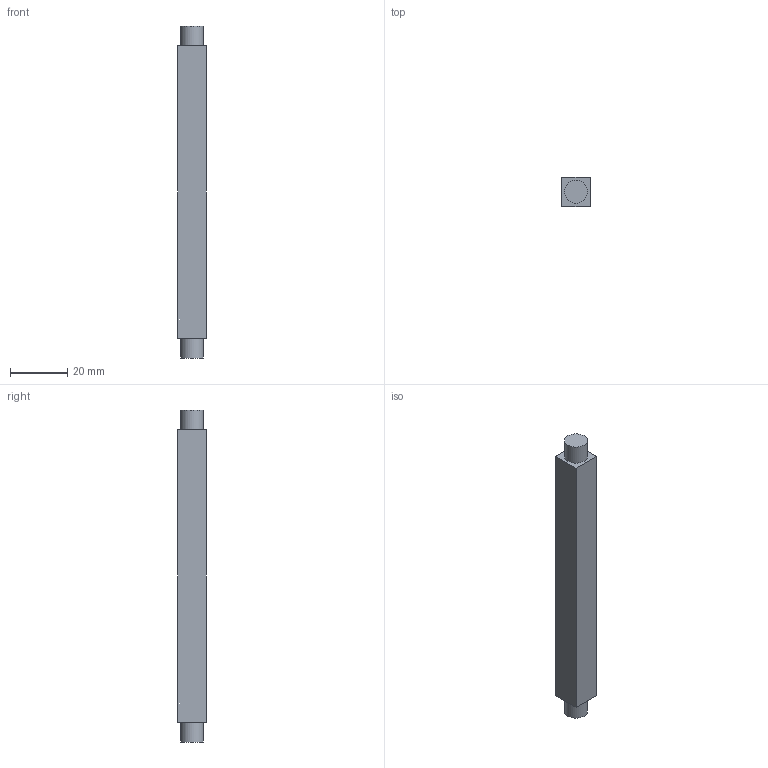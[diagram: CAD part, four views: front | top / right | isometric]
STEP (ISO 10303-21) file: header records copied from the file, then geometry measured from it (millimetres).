
FILE_DESCRIPTION(/* description */ ('STEP AP242','CAx-IF Rec.Pracs.---Representation and Presentation of Product Manufacturing Information (PMI)---4.0---2014-10-13','CAx-IF Rec.Pracs.---3D Tessellated Geometry---0.4---2014-09-14','2;1'),/* implementation_level */ '2;1');
FILE_NAME(/* name */ 'Part Studio 1 - Cam Shaft',/* time_stamp */ '2025-09-04T05:47:28Z',/* author */ (''),/* organization */ (''),/* preprocessor_version */ 'ST-DEVELOPER v20',/* originating_system */ 'ONSHAPE BY PTC INC, 1.203',/* authorisation */ ' ');
FILE_SCHEMA (('AP242_MANAGED_MODEL_BASED_3D_ENGINEERING_MIM_LF { 1 0 10303 442 1 1 4 }'));
Length unit declared in the file: metre
Products named in the file (1): Cam Shaft
Bounding box: 10 x 10 x 115.6 mm (x, y, z)
Volume: 10883.6 mm3; surface area: 4621.8 mm2
Topology: 1 solids, 1 shells, 10 faces, 18 edges, 12 vertices
Faces by surface type: plane 8, cylinder 2
Full cylindrical faces by diameter (mm): 8 x2
Entity records: 258 total; most frequent: DIRECTION 42, CARTESIAN_POINT 39, ORIENTED_EDGE 32, EDGE_CURVE 16, AXIS2_PLACEMENT_3D 15, EDGE_LOOP 14, FACE_BOUND 14, LINE 12
